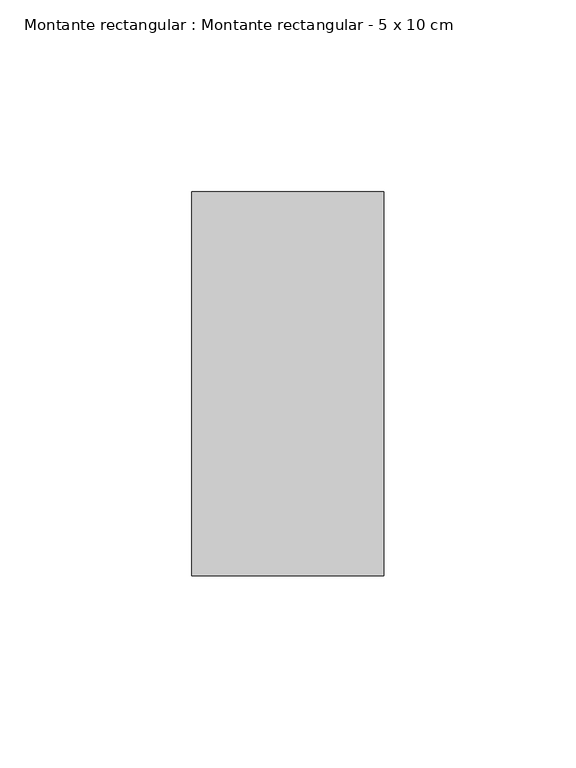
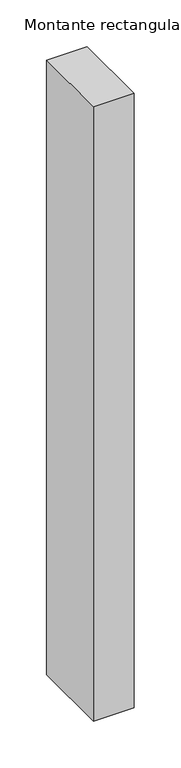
"""IFC4 building model written with IfcOpenShell, lengths in millimetres: member geometry, Montante rectangular : Montante rectangular - 5 x 10 cm."""

from ifc_helpers import new_model, si_unit, frame, origin, place, context, project, spatial, polyline, outline, extrude, source, transform, mapped, element, save


def montante_rectangular_montante_rectangular_5_x_10_cm_4604db76(model_context):
    return source(origin(), model_context, "Body", "SweptSolid", [
        extrude(outline(polyline([(25.0, 50.0), (25.0, -50.0), (-25.0, -50.0), (-25.0, 50.0), (25.0, 50.0)])), frame((0.0, 0.0, -800.0), z_axis=(0.0, 0.0, 1.0), x_axis=(1.0, 0.0, 0.0)), (0.0, 0.0, 1.0), 800.0),
    ])


if __name__ == "__main__":
    model = new_model("IFC4")
    model_context = context("Model", 3, world=origin())
    ifc_project = project(units=[si_unit("LENGTHUNIT", "METRE", prefix="MILLI")], contexts=[model_context])
    site = spatial("IfcSite", under=ifc_project)
    building = spatial("IfcBuilding", under=site)
    placement = place(None, origin())
    montante_rectangular_montante_rectangular_5_x_10_cm_shape = montante_rectangular_montante_rectangular_5_x_10_cm_4604db76(model_context)
    element("IfcMember", 1, ObjectType="Montante rectangular : Montante rectangular - 5 x 10 cm", at=placement, inside=building, context=model_context, shape_type="MappedRepresentation", body=[
        mapped(montante_rectangular_montante_rectangular_5_x_10_cm_shape, transform((0.0, 0.0, 0.0), x_axis=(1.0, 0.0, 0.0), y_axis=(0.0, 1.0, 0.0), z_axis=(0.0, 0.0, 1.0))),
    ])
    save(model, "model.ifc")
